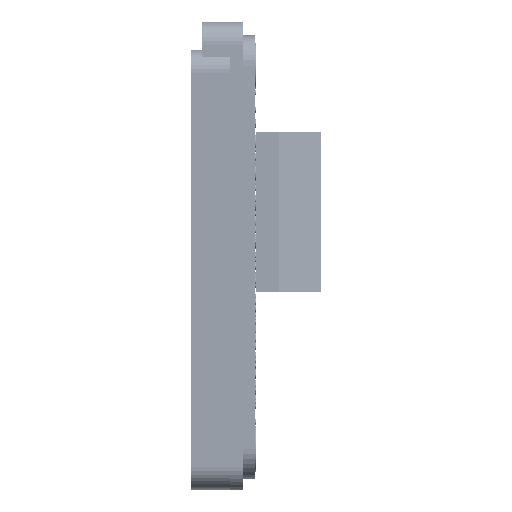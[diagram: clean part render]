
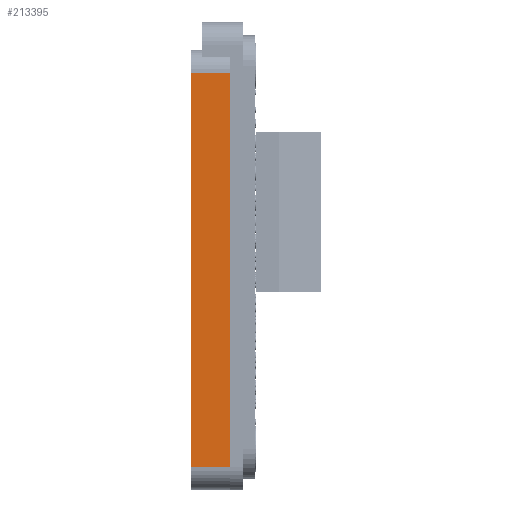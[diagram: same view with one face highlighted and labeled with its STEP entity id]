
A CAD part, left-side view. The second image highlights one B-rep face of the part: STEP entity #213395.
In plain terms, the highlighted planar face has unit normal (-1, 0, 0).
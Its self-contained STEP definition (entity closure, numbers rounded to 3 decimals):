
#22279 = VERTEX_POINT ( 'NONE', #253690 ) ;
#22290 = VERTEX_POINT ( 'NONE', #253823 ) ;
#117072 = AXIS2_PLACEMENT_3D ( 'NONE', #177901, #177968, #177945 ) ;
#177899 = PLANE ( 'NONE',  #117072 ) ;
#177901 = CARTESIAN_POINT ( 'NONE',  ( -40.45, 7.2, 2. ) ) ;
#177945 = DIRECTION ( 'NONE',  ( 0., 1., 0. ) ) ;
#177968 = DIRECTION ( 'NONE',  ( 1., 0., 0. ) ) ;
#203457 = VECTOR ( 'NONE', #209665, 1000. ) ;
#203494 = LINE ( 'NONE', #209683, #203457 ) ;
#203577 = LINE ( 'NONE', #209989, #203640 ) ;
#203603 = LINE ( 'NONE', #209757, #203605 ) ;
#203605 = VECTOR ( 'NONE', #209900, 1000. ) ;
#203640 = VECTOR ( 'NONE', #209941, 1000. ) ;
#203660 = VECTOR ( 'NONE', #210029, 1000. ) ;
#203671 = LINE ( 'NONE', #209963, #203660 ) ;
#206853 = FACE_OUTER_BOUND ( 'NONE', #389039, .T. ) ;
#209665 = DIRECTION ( 'NONE',  ( 0., 0., -1. ) ) ;
#209683 = CARTESIAN_POINT ( 'NONE',  ( -40.45, 7.2, 2. ) ) ;
#209757 = CARTESIAN_POINT ( 'NONE',  ( -40.45, 7.2, 2. ) ) ;
#209900 = DIRECTION ( 'NONE',  ( 0., -1., 0. ) ) ;
#209941 = DIRECTION ( 'NONE',  ( 0., 1., 0. ) ) ;
#209963 = CARTESIAN_POINT ( 'NONE',  ( -40.45, -44.2, 2. ) ) ;
#209989 = CARTESIAN_POINT ( 'NONE',  ( -40.45, -44.2, -3. ) ) ;
#210029 = DIRECTION ( 'NONE',  ( 0., 0., -1. ) ) ;
#213395 = ADVANCED_FACE ( 'NONE', ( #206853 ), #177899, .F. ) ;
#253690 = CARTESIAN_POINT ( 'NONE',  ( -40.45, -44.2, 2. ) ) ;
#253823 = CARTESIAN_POINT ( 'NONE',  ( -40.45, -44.2, -3. ) ) ;
#257602 = VERTEX_POINT ( 'NONE', #302838 ) ;
#257642 = VERTEX_POINT ( 'NONE', #302852 ) ;
#302838 = CARTESIAN_POINT ( 'NONE',  ( -40.45, 7.2, -3. ) ) ;
#302852 = CARTESIAN_POINT ( 'NONE',  ( -40.45, 7.2, 2. ) ) ;
#386224 = EDGE_CURVE ( 'NONE', #257642, #257602, #203494, .T. ) ;
#386375 = EDGE_CURVE ( 'NONE', #257642, #22279, #203603, .T. ) ;
#386412 = EDGE_CURVE ( 'NONE', #22290, #257602, #203577, .T. ) ;
#386428 = EDGE_CURVE ( 'NONE', #22279, #22290, #203671, .T. ) ;
#389039 = EDGE_LOOP ( 'NONE', ( #426525, #426286, #426238, #426534 ) ) ;
#426238 = ORIENTED_EDGE ( 'NONE', *, *, #386428, .F. ) ;
#426286 = ORIENTED_EDGE ( 'NONE', *, *, #386412, .F. ) ;
#426525 = ORIENTED_EDGE ( 'NONE', *, *, #386224, .T. ) ;
#426534 = ORIENTED_EDGE ( 'NONE', *, *, #386375, .F. ) ;
